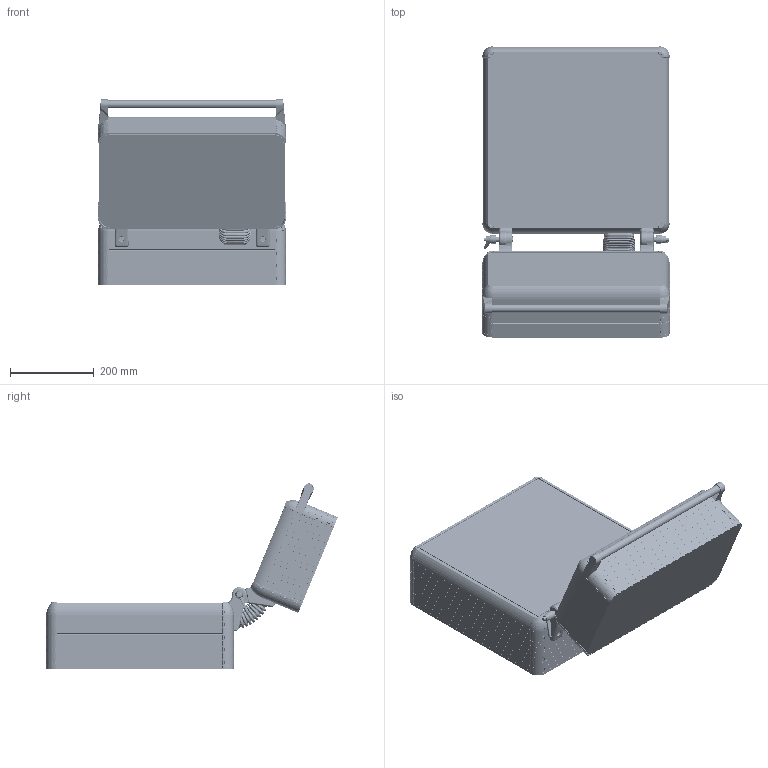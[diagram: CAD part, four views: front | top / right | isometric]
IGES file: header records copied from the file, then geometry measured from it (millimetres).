
Start section: SolidWorks IGES file using analytic representation for surfaces
Global section: file name: D:\KLAVYE\KLV 1512\1512 datalar\1500-1209.IGS; native system: SolidWorks 2022; preprocessor: SolidWorks 2022; author: User; date: 220509.144228; units: millimetre
Bounding box: 447 x 695.1 x 441.55 mm (x, y, z)
Surface area: 3284787.2 mm2 (no closed solid volume)
Topology: 0 solids, 0 shells, 21220 faces, 164670 edges, 163787 vertices
Faces by surface type: bspline 14128, revolution 7092
